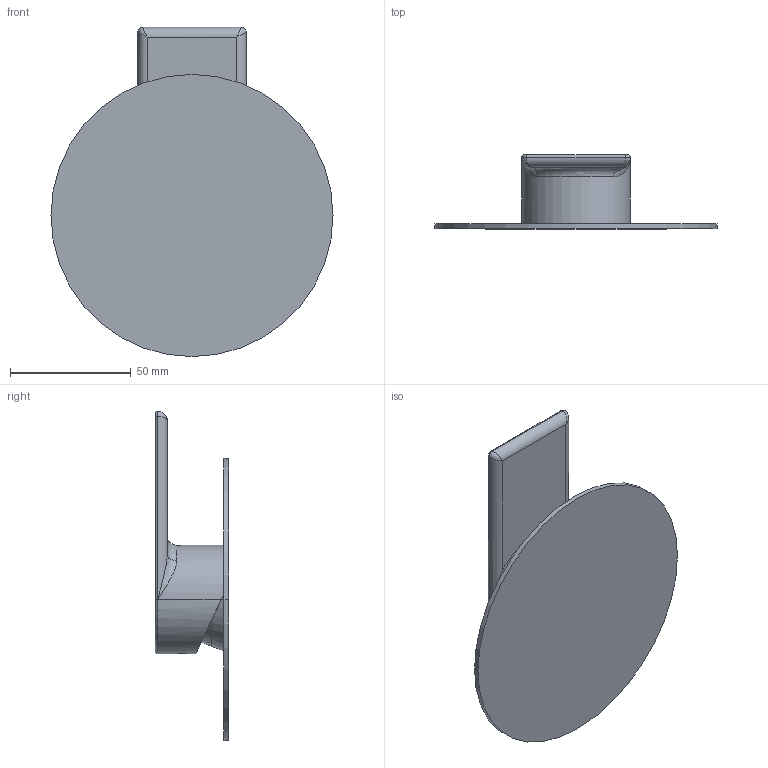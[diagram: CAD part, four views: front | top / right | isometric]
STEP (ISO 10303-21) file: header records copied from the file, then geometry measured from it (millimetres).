
FILE_DESCRIPTION (( 'STEP AP214' ), '1' );
FILE_NAME ('80216110 x architetti.STEP', '2025-03-05T10:51:33', ( '' ), ( '' ), 'SwSTEP 2.0', 'SolidWorks 2020', '' );
FILE_SCHEMA (( 'AUTOMOTIVE_DESIGN' ));
Length unit declared in the file: millimetre
Products named in the file (1): 80216110 x architetti
Bounding box: 117 x 30.5 x 136.5 mm (x, y, z)
Volume: 68040.1 mm3; surface area: 40305.1 mm2
Topology: 1 solids, 2 shells, 52 faces, 121 edges, 70 vertices
Faces by surface type: cylinder 22, plane 8, cone 7, bspline 6, torus 5, sphere 4
Entity records: 2699 total; most frequent: CARTESIAN_POINT 997, DIRECTION 249, ORIENTED_EDGE 234, EDGE_CURVE 117, AXIS2_PLACEMENT_3D 108, VERTEX_POINT 70, CIRCLE 61, EDGE_LOOP 59
